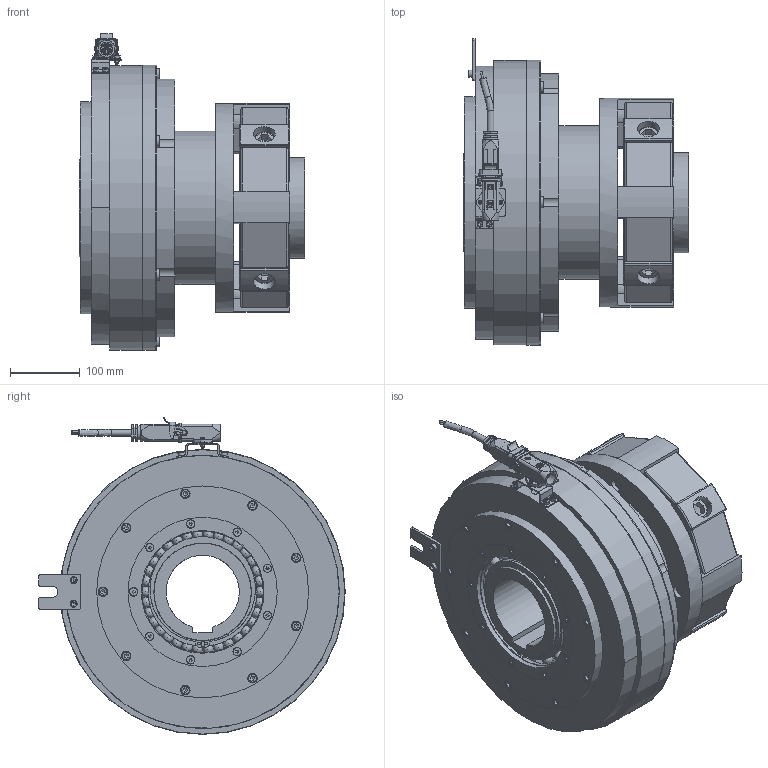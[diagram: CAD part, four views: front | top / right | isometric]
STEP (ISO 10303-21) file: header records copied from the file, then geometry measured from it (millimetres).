
FILE_DESCRIPTION(/* description */ (''),/* implementation_level */ '2;1');
FILE_NAME(/* name */ 'X:\INVENTOR\DISEGNI\08_Freni_Friz_Elettmag_Monodisco\08_26 EMSL_DF\EMSL_DF STEP\08_26_400_51 EMSL400_DF-GE_S@STEP.stp',/* time_stamp */ '2018-04-24T10:20:20+02:00',/* author */ ('stefano'),/* organization */ (''),/* preprocessor_version */ 'ST-DEVELOPER v17',/* originating_system */ 'Autodesk Inventor 2018',/* authorisation */ '');
FILE_SCHEMA (('AUTOMOTIVE_DESIGN { 1 0 10303 214 3 1 1 }'));
Products named in the file (1): 08_26_400_51 EMSL400_DF-GE - Spina_Substitute_1
Bounding box: 324 x 439.5 x 454.6 mm (x, y, z)
Volume: 18301889.1 mm3; surface area: 2087960.5 mm2
Topology: 2 solids, 2 shells, 2603 faces, 7608 edges, 5118 vertices
Faces by surface type: plane 1376, cylinder 776, torus 182, cone 162, sphere 86, bspline 21
Full cylindrical faces by diameter (mm): 0.35 x1, 0.491 x1, 0.753 x1, 0.95 x1, 0.986 x1, 1.05 x1, 2.5 x2, 3 x16, 3.2 x1, 3.25 x2, 3.59 x3, 4 x7, 4.675 x2, 4.8 x2, 5 x4, 5.25 x4, 5.5 x2, 6 x6, 6.2 x1, 7 x9, 7.9 x2, 8.2 x2, 8.376 x18, 8.5 x4, 9.5 x2, 10 x2, 10.106 x6, 10.5 x8, 11.34 x9, 12 x9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
Entity records: 99322 total; most frequent: CARTESIAN_POINT 27008, ORIENTED_EDGE 14820, DIRECTION 14487, EDGE_CURVE 7410, AXIS2_PLACEMENT_3D 5390, VERTEX_POINT 5118, LINE 3707, VECTOR 3707
